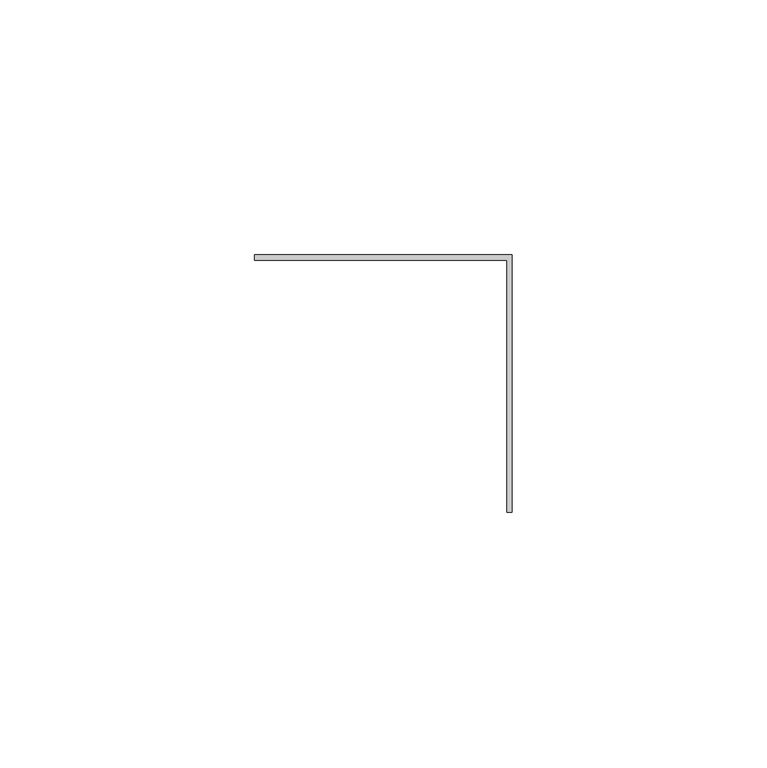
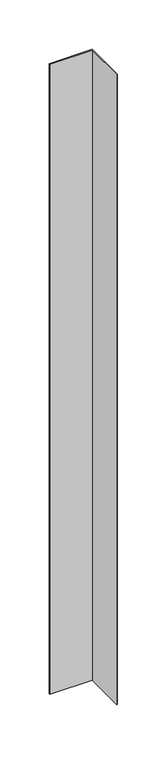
"""IFC4 building model written with IfcOpenShell, lengths in millimetres: member geometry, Meneau d'angle en L : ATELIERS 3S_Angle sortant."""

from ifc_helpers import new_model, si_unit, frame, origin, place, context, project, spatial, polyline, outline, extrude, source, transform, mapped, element, save


def member_29dbe2e3(model_context):
    return source(origin(), model_context, "Body", "SweptSolid", [
        extrude(outline(polyline([(37.5, -12.0), (37.5, 37.5), (-12.0, 37.5), (-12.0, 38.5), (38.5, 38.5), (38.5, -12.0), (37.5, -12.0)])), frame((0.0, 0.0, -780.0), z_axis=(0.0, 0.0, 1.0), x_axis=(1.0, 0.0, 0.0)), (0.0, 0.0, 1.0), 780.0),
    ])


if __name__ == "__main__":
    model = new_model("IFC4")
    model_context = context("Model", 3, world=origin())
    ifc_project = project(units=[si_unit("LENGTHUNIT", "METRE", prefix="MILLI")], contexts=[model_context])
    site = spatial("IfcSite", under=ifc_project)
    building = spatial("IfcBuilding", under=site)
    placement = place(None, origin())
    member_shape = member_29dbe2e3(model_context)
    element("IfcMember", 1, ObjectType="Meneau d'angle en L : ATELIERS 3S_Angle sortant", at=placement, inside=building, context=model_context, shape_type="MappedRepresentation", body=[
        mapped(member_shape, transform((0.0, 0.0, 0.0), x_axis=(1.0, 0.0, 0.0), y_axis=(0.0, 1.0, 0.0), z_axis=(0.0, 0.0, 1.0))),
    ])
    save(model, "model.ifc")
